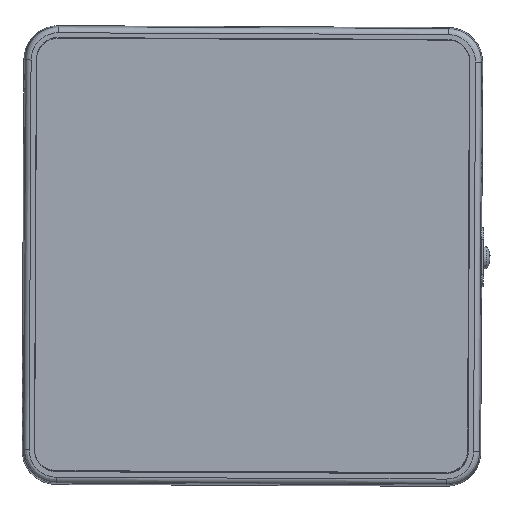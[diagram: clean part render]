
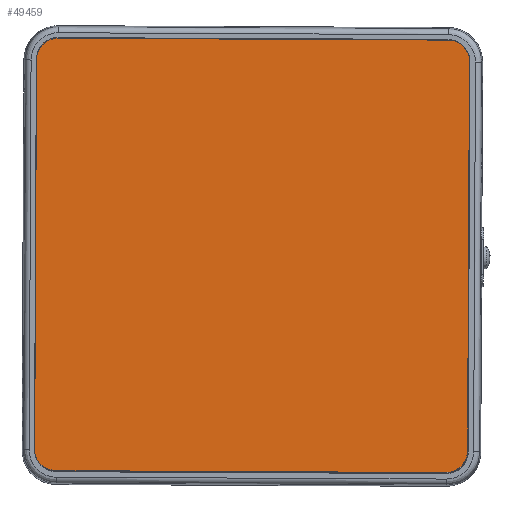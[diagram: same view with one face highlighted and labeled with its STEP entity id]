
A CAD part, top view. The second image highlights one B-rep face of the part: STEP entity #49459.
In plain terms, the highlighted planar face has unit normal (0, 0, 1).
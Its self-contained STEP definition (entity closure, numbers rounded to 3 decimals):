
#1381=ELLIPSE('',#52603,3.761,3.761);
#1383=ELLIPSE('',#52606,3.761,3.761);
#1385=ELLIPSE('',#52609,3.761,3.761);
#1387=ELLIPSE('',#52612,3.761,3.761);
#5748=FACE_OUTER_BOUND('',#8629,.T.);
#8629=EDGE_LOOP('',(#37444,#37445,#37446,#37447,#37448,#37449,#37450,#37451));
#12550=LINE('',#73647,#17459);
#12554=LINE('',#73676,#17463);
#12558=LINE('',#73705,#17467);
#12562=LINE('',#73733,#17471);
#17459=VECTOR('',#58143,67.999);
#17463=VECTOR('',#58153,67.999);
#17467=VECTOR('',#58163,67.999);
#17471=VECTOR('',#58173,67.999);
#22288=VERTEX_POINT('',#73637);
#22289=VERTEX_POINT('',#73638);
#22292=VERTEX_POINT('',#73646);
#22294=VERTEX_POINT('',#73669);
#22296=VERTEX_POINT('',#73675);
#22298=VERTEX_POINT('',#73698);
#22300=VERTEX_POINT('',#73704);
#22302=VERTEX_POINT('',#73727);
#27834=EDGE_CURVE('',#22288,#22289,#1381,.T.);
#27838=EDGE_CURVE('',#22289,#22292,#12550,.T.);
#27841=EDGE_CURVE('',#22292,#22294,#1383,.T.);
#27844=EDGE_CURVE('',#22294,#22296,#12554,.T.);
#27847=EDGE_CURVE('',#22296,#22298,#1385,.T.);
#27850=EDGE_CURVE('',#22298,#22300,#12558,.T.);
#27853=EDGE_CURVE('',#22300,#22302,#1387,.T.);
#27856=EDGE_CURVE('',#22302,#22288,#12562,.T.);
#37444=ORIENTED_EDGE('',*,*,#27834,.F.);
#37445=ORIENTED_EDGE('',*,*,#27856,.F.);
#37446=ORIENTED_EDGE('',*,*,#27853,.F.);
#37447=ORIENTED_EDGE('',*,*,#27850,.F.);
#37448=ORIENTED_EDGE('',*,*,#27847,.F.);
#37449=ORIENTED_EDGE('',*,*,#27844,.F.);
#37450=ORIENTED_EDGE('',*,*,#27841,.F.);
#37451=ORIENTED_EDGE('',*,*,#27838,.F.);
#47435=PLANE('',#52615);
#49459=ADVANCED_FACE('',(#5748),#47435,.T.);
#52603=AXIS2_PLACEMENT_3D('',#73639,#58135,#58136);
#52606=AXIS2_PLACEMENT_3D('',#73670,#58146,#58147);
#52609=AXIS2_PLACEMENT_3D('',#73699,#58156,#58157);
#52612=AXIS2_PLACEMENT_3D('',#73728,#58166,#58167);
#52615=AXIS2_PLACEMENT_3D('',#73735,#58175,#58176);
#58135=DIRECTION('center_axis',(0.,0.,-1.));
#58136=DIRECTION('ref_axis',(-0.707,-0.707,0.));
#58143=DIRECTION('',(0.,1.,0.));
#58146=DIRECTION('center_axis',(0.,0.,-1.));
#58147=DIRECTION('ref_axis',(-0.707,0.707,0.));
#58153=DIRECTION('',(1.,0.,0.));
#58156=DIRECTION('center_axis',(0.,0.,-1.));
#58157=DIRECTION('ref_axis',(0.707,0.707,0.));
#58163=DIRECTION('',(0.,-1.,0.));
#58166=DIRECTION('center_axis',(0.,0.,-1.));
#58167=DIRECTION('ref_axis',(0.707,-0.707,0.));
#58173=DIRECTION('',(-1.,0.,0.));
#58175=DIRECTION('center_axis',(0.,0.,1.));
#58176=DIRECTION('ref_axis',(1.,0.,0.));
#73637=CARTESIAN_POINT('',(0.,0.,1.8));
#73638=CARTESIAN_POINT('',(-3.761,3.761,1.8));
#73639=CARTESIAN_POINT('Origin',(0.,3.761,1.8));
#73646=CARTESIAN_POINT('',(-3.761,71.759,1.8));
#73647=CARTESIAN_POINT('',(-3.761,3.761,1.8));
#73669=CARTESIAN_POINT('',(0.,75.52,1.8));
#73670=CARTESIAN_POINT('Origin',(0.,71.759,1.8));
#73675=CARTESIAN_POINT('',(67.999,75.52,1.8));
#73676=CARTESIAN_POINT('',(0.,75.52,1.8));
#73698=CARTESIAN_POINT('',(71.759,71.759,1.8));
#73699=CARTESIAN_POINT('Origin',(67.999,71.759,1.8));
#73704=CARTESIAN_POINT('',(71.759,3.761,1.8));
#73705=CARTESIAN_POINT('',(71.759,71.759,1.8));
#73727=CARTESIAN_POINT('',(67.999,0.,1.8));
#73728=CARTESIAN_POINT('Origin',(67.999,3.761,1.8));
#73733=CARTESIAN_POINT('',(67.999,0.,1.8));
#73735=CARTESIAN_POINT('Origin',(33.999,37.76,1.8));
